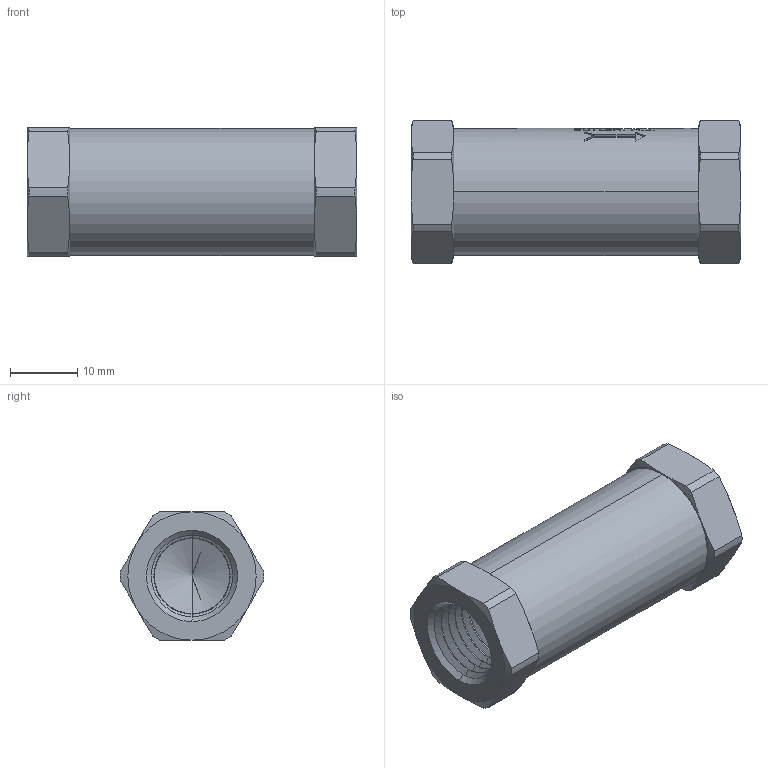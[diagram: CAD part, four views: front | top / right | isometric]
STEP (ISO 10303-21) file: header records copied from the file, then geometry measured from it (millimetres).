
FILE_DESCRIPTION (( 'STEP AP203' ), '1' );
FILE_NAME ('DCV-250B.STEP', '2019-07-25T12:35:39', ( '' ), ( '' ), 'SwSTEP 2.0', 'SolidWorks 2011', '' );
FILE_SCHEMA (( 'CONFIG_CONTROL_DESIGN' ));
Length unit declared in the file: inch
Products named in the file (2): DCV-250B; Part6^DCV-250B_CM
Assembly tree (1 placements, depth 2):
  DCV-250B
    Part6^DCV-250B_CM
Bounding box: 49 x 21.33 x 19.05 mm (x, y, z)
Volume: 10857.5 mm3; surface area: 5321.4 mm2
Topology: 1 solids, 1 shells, 423 faces, 1026 edges, 630 vertices
Faces by surface type: plane 146, cone 136, bspline 78, cylinder 63
Entity records: 16987 total; most frequent: CARTESIAN_POINT 7546, ORIENTED_EDGE 2044, DIRECTION 1720, EDGE_CURVE 1022, AXIS2_PLACEMENT_3D 659, VERTEX_POINT 630, EDGE_LOOP 452, FACE_OUTER_BOUND 423
